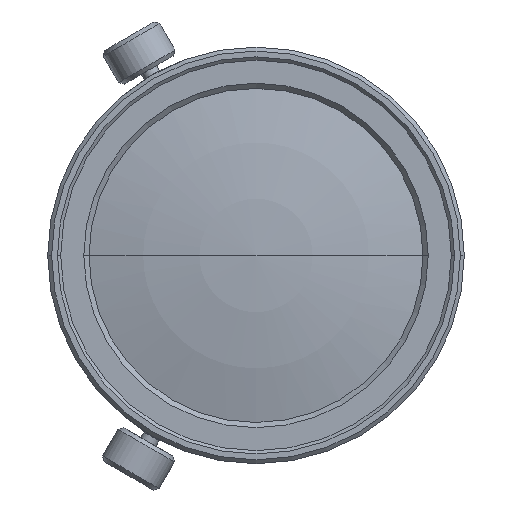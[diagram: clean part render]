
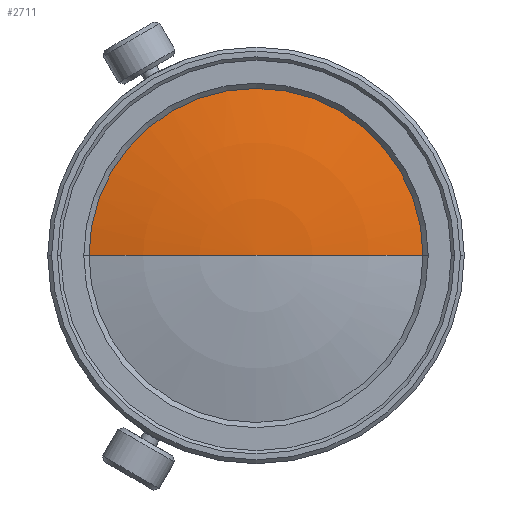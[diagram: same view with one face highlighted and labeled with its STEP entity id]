
A CAD part, left-side view. The second image highlights one B-rep face of the part: STEP entity #2711.
In plain terms, the highlighted toroidal (fillet/blend) face has major radius 0 mm and minor radius 53 mm.
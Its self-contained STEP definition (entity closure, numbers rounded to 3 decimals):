
#3 = CIRCLE ( 'NONE', #903, 12.93 ) ;
#293 = EDGE_CURVE ( 'NONE', #529, #337, #2751, .T. ) ;
#337 = VERTEX_POINT ( 'NONE', #417 ) ;
#413 = ORIENTED_EDGE ( 'NONE', *, *, #723, .T. ) ;
#417 = CARTESIAN_POINT ( 'NONE',  ( -57.904, 0., 0. ) ) ;
#529 = VERTEX_POINT ( 'NONE', #1939 ) ;
#723 = EDGE_CURVE ( 'NONE', #1387, #529, #3, .T. ) ;
#733 = CARTESIAN_POINT ( 'NONE',  ( -56.303, -12.93, 0. ) ) ;
#855 = AXIS2_PLACEMENT_3D ( 'NONE', #2933, #2919, #2863 ) ;
#903 = AXIS2_PLACEMENT_3D ( 'NONE', #1515, #3391, #1777 ) ;
#1073 = CARTESIAN_POINT ( 'NONE',  ( -4.904, 0., 0. ) ) ;
#1093 = TOROIDAL_SURFACE ( 'NONE', #1980, 0., 53. ) ;
#1324 = DIRECTION ( 'NONE',  ( 0., 0., -1. ) ) ;
#1387 = VERTEX_POINT ( 'NONE', #733 ) ;
#1515 = CARTESIAN_POINT ( 'NONE',  ( -56.303, 0., 0. ) ) ;
#1616 = DIRECTION ( 'NONE',  ( 0., -1., 0. ) ) ;
#1777 = DIRECTION ( 'NONE',  ( 0., -1., 0. ) ) ;
#1939 = CARTESIAN_POINT ( 'NONE',  ( -56.303, 12.93, 0. ) ) ;
#1980 = AXIS2_PLACEMENT_3D ( 'NONE', #1073, #3230, #1616 ) ;
#2194 = ORIENTED_EDGE ( 'NONE', *, *, #3195, .F. ) ;
#2217 = AXIS2_PLACEMENT_3D ( 'NONE', #2948, #1324, #3199 ) ;
#2335 = EDGE_LOOP ( 'NONE', ( #413, #2936, #2194 ) ) ;
#2541 = CIRCLE ( 'NONE', #2217, 53. ) ;
#2711 = ADVANCED_FACE ( 'NONE', ( #3244 ), #1093, .T. ) ;
#2751 = CIRCLE ( 'NONE', #855, 53. ) ;
#2863 = DIRECTION ( 'NONE',  ( 0., -1., 0. ) ) ;
#2919 = DIRECTION ( 'NONE',  ( 0., 0., 1. ) ) ;
#2933 = CARTESIAN_POINT ( 'NONE',  ( -4.904, 0., 0. ) ) ;
#2936 = ORIENTED_EDGE ( 'NONE', *, *, #293, .T. ) ;
#2948 = CARTESIAN_POINT ( 'NONE',  ( -4.904, 0., 0. ) ) ;
#3195 = EDGE_CURVE ( 'NONE', #1387, #337, #2541, .T. ) ;
#3199 = DIRECTION ( 'NONE',  ( -1., 0., 0. ) ) ;
#3230 = DIRECTION ( 'NONE',  ( -1., 0., 0. ) ) ;
#3244 = FACE_OUTER_BOUND ( 'NONE', #2335, .T. ) ;
#3391 = DIRECTION ( 'NONE',  ( -1., 0., 0. ) ) ;
